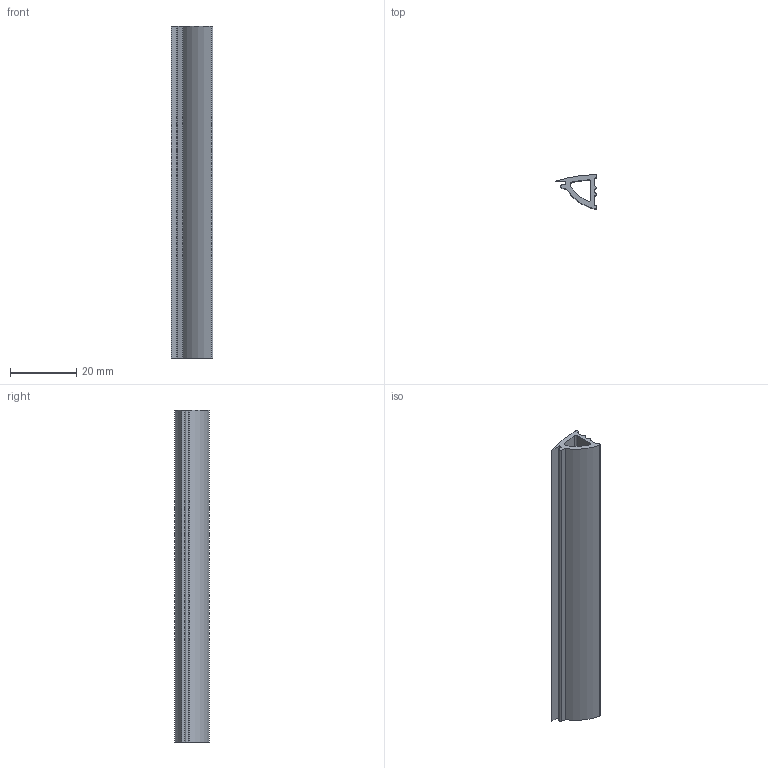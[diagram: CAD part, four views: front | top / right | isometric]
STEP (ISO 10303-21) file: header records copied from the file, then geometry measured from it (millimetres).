
FILE_DESCRIPTION (( 'STEP AP214' ), '1' );
FILE_NAME ('F50803.step', '2024-12-03T16:17:47', ( '' ), ( '' ), 'SwSTEP 2.0', 'SolidWorks 2023', '' );
FILE_SCHEMA (( 'AUTOMOTIVE_DESIGN' ));
Length unit declared in the file: millimetre
Products named in the file (1): F50803
Bounding box: 12.61 x 10.32 x 100 mm (x, y, z)
Volume: 4403.6 mm3; surface area: 6578.3 mm2
Topology: 1 solids, 1 shells, 26 faces, 72 edges, 48 vertices
Faces by surface type: cylinder 15, plane 11
Entity records: 873 total; most frequent: DIRECTION 156, CARTESIAN_POINT 147, ORIENTED_EDGE 144, EDGE_CURVE 72, AXIS2_PLACEMENT_3D 57, VERTEX_POINT 48, VECTOR 42, LINE 42
